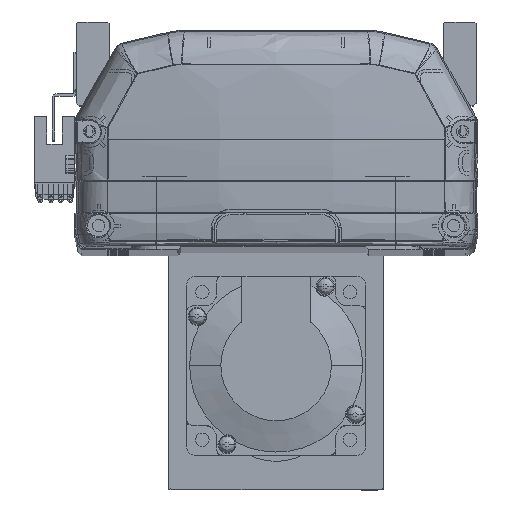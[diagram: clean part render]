
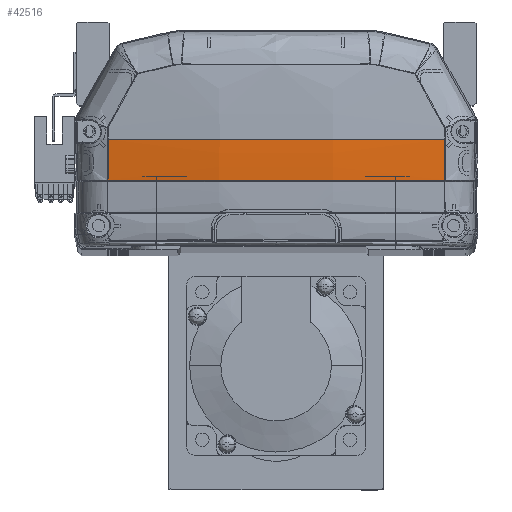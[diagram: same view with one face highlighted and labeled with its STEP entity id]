
A CAD part, top view. The second image highlights one B-rep face of the part: STEP entity #42516.
In plain terms, the highlighted free-form (B-spline) face has degree [3, 3] with [4, 4] control points.
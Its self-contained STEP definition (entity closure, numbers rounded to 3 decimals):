
#1301 = EDGE_CURVE ( 'NONE', #24472, #36829, #54409, .T. ) ;
#1532 = CARTESIAN_POINT ( 'NONE',  ( -57.335, 26.762, -4.928 ) ) ;
#1742 = CARTESIAN_POINT ( 'NONE',  ( -57.335, 36., -5.042 ) ) ;
#2464 = CARTESIAN_POINT ( 'NONE',  ( -19.28, 22.225, -9.565 ) ) ;
#2843 = CARTESIAN_POINT ( 'NONE',  ( -56.661, 22.225, -4.818 ) ) ;
#3474 = AXIS2_PLACEMENT_3D ( 'NONE', #12891, #13277, #26155 ) ;
#3559 = CARTESIAN_POINT ( 'NONE',  ( 56.647, 31.387, -5.158 ) ) ;
#3705 = EDGE_CURVE ( 'NONE', #24472, #45126, #34915, .T. ) ;
#4281 =( BOUNDED_SURFACE ( )  B_SPLINE_SURFACE ( 3, 3, ( 
 ( #38187, #42517, #19810, #37407 ),
 ( #15622, #51263, #50874, #23785 ),
 ( #55405, #24364, #37795, #28688 ),
 ( #51457, #1532, #5710, #1742 ) ),
 .UNSPECIFIED., .F., .F., .F. ) 
 B_SPLINE_SURFACE_WITH_KNOTS ( ( 4, 4 ),
 ( 4, 4 ),
 ( 0., 1. ),
 ( 0., 1. ),
 .UNSPECIFIED. ) 
 GEOMETRIC_REPRESENTATION_ITEM ( )  RATIONAL_B_SPLINE_SURFACE ( (
 ( 1., 1., 1., 1.),
 ( 0.99, 0.99, 0.99, 0.99),
 ( 0.99, 0.99, 0.99, 0.99),
 ( 1., 1., 1., 1.) ) ) 
 REPRESENTATION_ITEM ( '' )  SURFACE ( )  );
#4425 = CARTESIAN_POINT ( 'NONE',  ( -56.661, 22.225, -4.818 ) ) ;
#5710 = CARTESIAN_POINT ( 'NONE',  ( -57.335, 31.38, -5.042 ) ) ;
#6545 = EDGE_LOOP ( 'NONE', ( #10032, #22018, #14128, #36130, #24932 ) ) ;
#6826 = CARTESIAN_POINT ( 'NONE',  ( 56.647, 35.969, -5.158 ) ) ;
#6852 = CARTESIAN_POINT ( 'NONE',  ( 19.121, 22.225, -9.064 ) ) ;
#8907 = CIRCLE ( 'NONE', #49609, 340.733 ) ;
#10032 = ORIENTED_EDGE ( 'NONE', *, *, #18429, .F. ) ;
#10889 = CIRCLE ( 'NONE', #3474, 6395.966 ) ;
#11422 = CARTESIAN_POINT ( 'NONE',  ( 11.954, 22.225, -9.367 ) ) ;
#11619 = CARTESIAN_POINT ( 'NONE',  ( 4.761, 22.225, -9.537 ) ) ;
#12170 = EDGE_CURVE ( 'NONE', #36829, #38939, #10889, .T. ) ;
#12891 = CARTESIAN_POINT ( 'NONE',  ( 6452.613, 35.969, -5.158 ) ) ;
#13277 = DIRECTION ( 'NONE',  ( 0., 0., -1. ) ) ;
#13402 = DIRECTION ( 'NONE',  ( 0., 1., 0. ) ) ;
#14128 = ORIENTED_EDGE ( 'NONE', *, *, #1301, .F. ) ;
#15622 = CARTESIAN_POINT ( 'NONE',  ( 19.295, 21.828, -11.186 ) ) ;
#15774 = CARTESIAN_POINT ( 'NONE',  ( 1.152, 22.225, -9.568 ) ) ;
#15965 = CARTESIAN_POINT ( 'NONE',  ( 8.363, 22.225, -9.48 ) ) ;
#16987 = CARTESIAN_POINT ( 'NONE',  ( -56.647, 31.405, -5.158 ) ) ;
#18429 = EDGE_CURVE ( 'NONE', #38939, #25408, #8907, .T. ) ;
#19810 = CARTESIAN_POINT ( 'NONE',  ( 57.335, 31.38, -5.042 ) ) ;
#20146 = CARTESIAN_POINT ( 'NONE',  ( -38.235, 22.225, -7.93 ) ) ;
#20544 = CARTESIAN_POINT ( 'NONE',  ( 2.357, 22.225, -9.562 ) ) ;
#22018 = ORIENTED_EDGE ( 'NONE', *, *, #12170, .F. ) ;
#23785 = CARTESIAN_POINT ( 'NONE',  ( 19.295, 36., -11.535 ) ) ;
#24364 = CARTESIAN_POINT ( 'NONE',  ( -19.295, 26.549, -11.419 ) ) ;
#24472 = VERTEX_POINT ( 'NONE', #35993 ) ;
#24932 = ORIENTED_EDGE ( 'NONE', *, *, #56126, .F. ) ;
#25408 = VERTEX_POINT ( 'NONE', #27079 ) ;
#26155 = DIRECTION ( 'NONE',  ( -1., 0., 0. ) ) ;
#26258 = DIRECTION ( 'NONE',  ( 0., 0., -1. ) ) ;
#27079 = CARTESIAN_POINT ( 'NONE',  ( -56.647, 36., -5.158 ) ) ;
#27392 = CARTESIAN_POINT ( 'NONE',  ( 56.647, 36., -5.158 ) ) ;
#28448 = CARTESIAN_POINT ( 'NONE',  ( 47.432, 22.225, -6.377 ) ) ;
#28688 = CARTESIAN_POINT ( 'NONE',  ( -19.295, 36., -11.535 ) ) ;
#34883 = CARTESIAN_POINT ( 'NONE',  ( 56.661, 22.225, -4.818 ) ) ;
#34915 = B_SPLINE_CURVE_WITH_KNOTS ( 'NONE', 3,
 ( #41716, #28448, #56152, #42672, #6852, #11422, #15965, #11619, #20544, #15774, #2464, #20146, #52383 ),
 .UNSPECIFIED., .F., .F.,
 ( 4, 2, 2, 1, 2, 2, 4 ),
 ( 0., 0.25, 0.375, 0.438, 0.469, 0.5, 1. ),
 .UNSPECIFIED. ) ;
#35993 = CARTESIAN_POINT ( 'NONE',  ( 56.661, 22.225, -4.818 ) ) ;
#36130 = ORIENTED_EDGE ( 'NONE', *, *, #3705, .T. ) ;
#36829 = VERTEX_POINT ( 'NONE', #6826 ) ;
#37407 = CARTESIAN_POINT ( 'NONE',  ( 57.335, 36., -5.042 ) ) ;
#37795 = CARTESIAN_POINT ( 'NONE',  ( -19.295, 31.274, -11.535 ) ) ;
#38187 = CARTESIAN_POINT ( 'NONE',  ( 57.335, 22.148, -4.7 ) ) ;
#38939 = VERTEX_POINT ( 'NONE', #27392 ) ;
#39872 = CARTESIAN_POINT ( 'NONE',  ( 0., 36., 330.833 ) ) ;
#41716 = CARTESIAN_POINT ( 'NONE',  ( 56.661, 22.225, -4.818 ) ) ;
#42516 = ADVANCED_FACE ( 'NONE', ( #42997 ), #4281, .T. ) ;
#42517 = CARTESIAN_POINT ( 'NONE',  ( 57.335, 26.762, -4.928 ) ) ;
#42672 = CARTESIAN_POINT ( 'NONE',  ( 23.877, 22.225, -8.763 ) ) ;
#42997 = FACE_OUTER_BOUND ( 'NONE', #6545, .T. ) ;
#44089 = CARTESIAN_POINT ( 'NONE',  ( -56.647, 36., -5.158 ) ) ;
#45126 = VERTEX_POINT ( 'NONE', #2843 ) ;
#49609 = AXIS2_PLACEMENT_3D ( 'NONE', #39872, #13402, #26258 ) ;
#50874 = CARTESIAN_POINT ( 'NONE',  ( 19.295, 31.274, -11.535 ) ) ;
#51263 = CARTESIAN_POINT ( 'NONE',  ( 19.295, 26.549, -11.419 ) ) ;
#51457 = CARTESIAN_POINT ( 'NONE',  ( -57.335, 22.148, -4.7 ) ) ;
#51911 = B_SPLINE_CURVE_WITH_KNOTS ( 'NONE', 3,
 ( #44089, #16987, #54305, #4425 ),
 .UNSPECIFIED., .F., .F.,
 ( 4, 4 ),
 ( 0., 1. ),
 .UNSPECIFIED. ) ;
#52383 = CARTESIAN_POINT ( 'NONE',  ( -56.661, 22.225, -4.818 ) ) ;
#53246 = CARTESIAN_POINT ( 'NONE',  ( 56.652, 26.806, -5.044 ) ) ;
#54305 = CARTESIAN_POINT ( 'NONE',  ( -56.652, 26.814, -5.045 ) ) ;
#54409 = B_SPLINE_CURVE_WITH_KNOTS ( 'NONE', 3,
 ( #34883, #53246, #3559, #57824 ),
 .UNSPECIFIED., .F., .F.,
 ( 4, 4 ),
 ( 0., 1. ),
 .UNSPECIFIED. ) ;
#55405 = CARTESIAN_POINT ( 'NONE',  ( -19.295, 21.828, -11.186 ) ) ;
#56126 = EDGE_CURVE ( 'NONE', #25408, #45126, #51911, .T. ) ;
#56152 = CARTESIAN_POINT ( 'NONE',  ( 38.071, 22.225, -7.566 ) ) ;
#57824 = CARTESIAN_POINT ( 'NONE',  ( 56.647, 35.969, -5.158 ) ) ;
